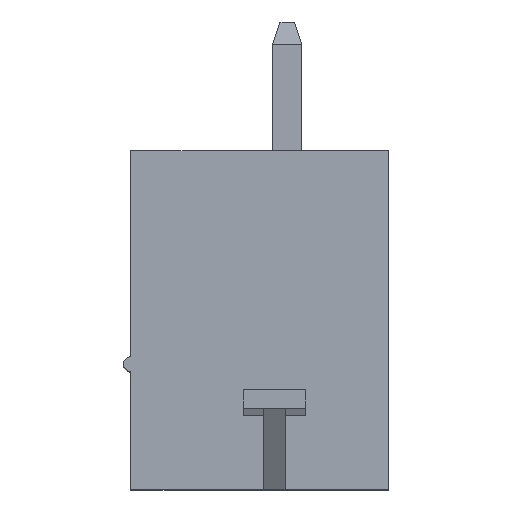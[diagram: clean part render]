
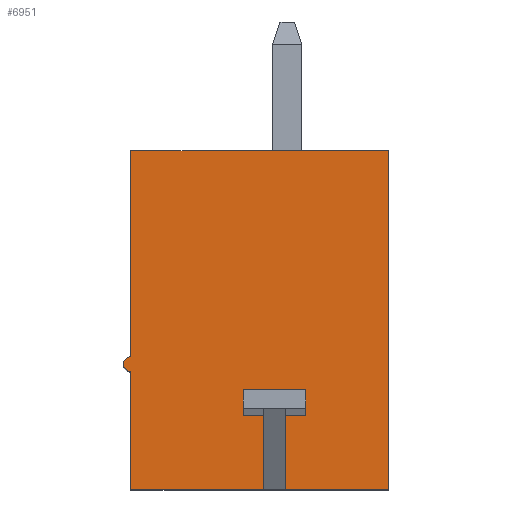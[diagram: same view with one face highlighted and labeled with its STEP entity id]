
A CAD part, top view. The second image highlights one B-rep face of the part: STEP entity #6951.
In plain terms, the highlighted planar face has unit normal (0, 0, 1).
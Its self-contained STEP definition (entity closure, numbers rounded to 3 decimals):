
#860=DIRECTION('',(1.,0.,0.));
#861=VECTOR('',#860,7.);
#862=CARTESIAN_POINT('',(-3.5,9.2,12.28));
#863=LINE('',#862,#861);
#872=DIRECTION('',(0.,1.,0.));
#873=VECTOR('',#872,5.6);
#874=CARTESIAN_POINT('',(-3.5,3.6,12.28));
#875=LINE('',#874,#873);
#888=DIRECTION('',(0.,1.,0.));
#889=VECTOR('',#888,3.2);
#890=CARTESIAN_POINT('',(-3.5,0.,12.28));
#891=LINE('',#890,#889);
#1010=DIRECTION('',(0.,-1.,0.));
#1011=VECTOR('',#1010,9.2);
#1012=CARTESIAN_POINT('',(3.5,9.2,12.28));
#1013=LINE('',#1012,#1011);
#1082=DIRECTION('',(1.,0.,0.));
#1083=VECTOR('',#1082,3.6);
#1084=CARTESIAN_POINT('',(-3.5,0.,12.28));
#1085=LINE('',#1084,#1083);
#1086=CARTESIAN_POINT('',(-3.5,3.4,12.28));
#1087=DIRECTION('',(0.,0.,1.));
#1088=DIRECTION('',(-1.,0.,0.));
#1089=AXIS2_PLACEMENT_3D('',#1086,#1087,#1088);
#1091=CARTESIAN_POINT('',(-3.5,3.4,12.28));
#1092=DIRECTION('',(0.,0.,1.));
#1093=DIRECTION('',(0.,1.,0.));
#1094=AXIS2_PLACEMENT_3D('',#1091,#1092,#1093);
#1096=DIRECTION('',(1.,0.,0.));
#1097=VECTOR('',#1096,2.8);
#1098=CARTESIAN_POINT('',(0.7,0.,12.28));
#1099=LINE('',#1098,#1097);
#1100=DIRECTION('',(1.,0.,0.));
#1101=VECTOR('',#1100,0.55);
#1102=CARTESIAN_POINT('',(-0.45,2.003,12.28));
#1103=LINE('',#1102,#1101);
#1128=DIRECTION('',(1.,0.,0.));
#1129=VECTOR('',#1128,0.55);
#1130=CARTESIAN_POINT('',(0.7,2.003,12.28));
#1131=LINE('',#1130,#1129);
#1136=DIRECTION('',(0.,1.,0.));
#1137=VECTOR('',#1136,2.003);
#1138=CARTESIAN_POINT('',(0.7,0.,12.28));
#1139=LINE('',#1138,#1137);
#1152=DIRECTION('',(0.,-1.,0.));
#1153=VECTOR('',#1152,2.003);
#1154=CARTESIAN_POINT('',(0.1,2.003,12.28));
#1155=LINE('',#1154,#1153);
#1164=DIRECTION('',(0.,1.,0.));
#1165=VECTOR('',#1164,0.5);
#1166=CARTESIAN_POINT('',(1.25,2.003,12.28));
#1167=LINE('',#1166,#1165);
#1172=DIRECTION('',(-1.,0.,0.));
#1173=VECTOR('',#1172,1.7);
#1174=CARTESIAN_POINT('',(1.25,2.503,12.28));
#1175=LINE('',#1174,#1173);
#1180=DIRECTION('',(0.,-1.,0.));
#1181=VECTOR('',#1180,0.5);
#1182=CARTESIAN_POINT('',(-0.45,2.503,12.28));
#1183=LINE('',#1182,#1181);
#4001=CARTESIAN_POINT('',(0.7,0.,12.28));
#4002=CARTESIAN_POINT('',(3.5,0.,12.28));
#4003=VERTEX_POINT('',#4001);
#4004=VERTEX_POINT('',#4002);
#4013=CARTESIAN_POINT('',(-3.5,0.,12.28));
#4014=VERTEX_POINT('',#4013);
#4015=CARTESIAN_POINT('',(0.1,0.,12.28));
#4016=VERTEX_POINT('',#4015);
#4123=CARTESIAN_POINT('',(0.1,2.003,12.28));
#4124=VERTEX_POINT('',#4123);
#4125=CARTESIAN_POINT('',(-3.5,3.2,12.28));
#4126=VERTEX_POINT('',#4125);
#4127=CARTESIAN_POINT('',(-3.5,3.6,12.28));
#4128=CARTESIAN_POINT('',(-3.7,3.4,12.28));
#4129=VERTEX_POINT('',#4127);
#4130=VERTEX_POINT('',#4128);
#4131=CARTESIAN_POINT('',(-3.5,9.2,12.28));
#4132=VERTEX_POINT('',#4131);
#4133=CARTESIAN_POINT('',(3.5,9.2,12.28));
#4134=VERTEX_POINT('',#4133);
#4135=CARTESIAN_POINT('',(0.7,2.003,12.28));
#4136=VERTEX_POINT('',#4135);
#4137=CARTESIAN_POINT('',(1.25,2.003,12.28));
#4138=VERTEX_POINT('',#4137);
#4139=CARTESIAN_POINT('',(1.25,2.503,12.28));
#4140=VERTEX_POINT('',#4139);
#4141=CARTESIAN_POINT('',(-0.45,2.503,12.28));
#4142=VERTEX_POINT('',#4141);
#4143=CARTESIAN_POINT('',(-0.45,2.003,12.28));
#4144=VERTEX_POINT('',#4143);
#6922=CARTESIAN_POINT('',(9.,11.094,12.28));
#6923=DIRECTION('',(0.,0.,-1.));
#6924=DIRECTION('',(0.,-1.,0.));
#6925=AXIS2_PLACEMENT_3D('',#6922,#6923,#6924);
#6926=PLANE('',#6925);
#6928=ORIENTED_EDGE('',*,*,#6927,.T.);
#6930=ORIENTED_EDGE('',*,*,#6929,.T.);
#6931=ORIENTED_EDGE('',*,*,#5280,.F.);
#6932=ORIENTED_EDGE('',*,*,#6620,.T.);
#6933=ORIENTED_EDGE('',*,*,#6606,.F.);
#6934=ORIENTED_EDGE('',*,*,#6604,.F.);
#6935=ORIENTED_EDGE('',*,*,#6587,.T.);
#6936=ORIENTED_EDGE('',*,*,#6572,.T.);
#6937=ORIENTED_EDGE('',*,*,#6798,.T.);
#6938=ORIENTED_EDGE('',*,*,#5268,.F.);
#6940=ORIENTED_EDGE('',*,*,#6939,.T.);
#6942=ORIENTED_EDGE('',*,*,#6941,.T.);
#6944=ORIENTED_EDGE('',*,*,#6943,.T.);
#6946=ORIENTED_EDGE('',*,*,#6945,.T.);
#6948=ORIENTED_EDGE('',*,*,#6947,.T.);
#6949=EDGE_LOOP('',(#6928,#6930,#6931,#6932,#6933,#6934,#6935,#6936,#6937,#6938,
#6940,#6942,#6944,#6946,#6948));
#6950=FACE_OUTER_BOUND('',#6949,.F.);
#6951=ADVANCED_FACE('',(#6950),#6926,.F.);
#1090=CIRCLE('',#1089,0.2);
#1095=CIRCLE('',#1094,0.2);
#5268=EDGE_CURVE('',#4003,#4004,#1099,.T.);
#5280=EDGE_CURVE('',#4014,#4016,#1085,.T.);
#6572=EDGE_CURVE('',#4132,#4134,#863,.T.);
#6587=EDGE_CURVE('',#4129,#4132,#875,.T.);
#6604=EDGE_CURVE('',#4129,#4130,#1095,.T.);
#6606=EDGE_CURVE('',#4130,#4126,#1090,.T.);
#6620=EDGE_CURVE('',#4014,#4126,#891,.T.);
#6798=EDGE_CURVE('',#4134,#4004,#1013,.T.);
#6927=EDGE_CURVE('',#4144,#4124,#1103,.T.);
#6929=EDGE_CURVE('',#4124,#4016,#1155,.T.);
#6939=EDGE_CURVE('',#4003,#4136,#1139,.T.);
#6941=EDGE_CURVE('',#4136,#4138,#1131,.T.);
#6943=EDGE_CURVE('',#4138,#4140,#1167,.T.);
#6945=EDGE_CURVE('',#4140,#4142,#1175,.T.);
#6947=EDGE_CURVE('',#4142,#4144,#1183,.T.);
